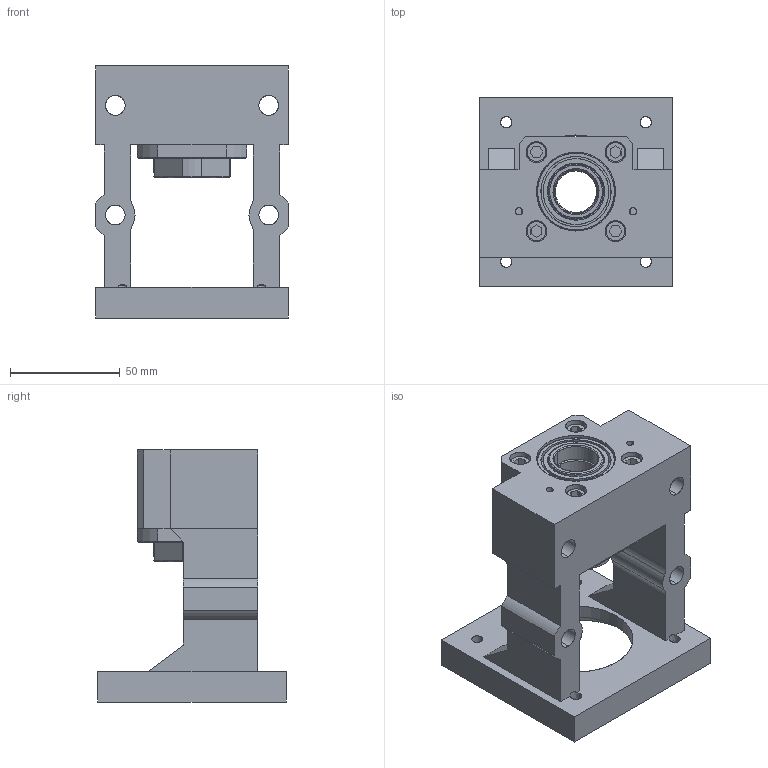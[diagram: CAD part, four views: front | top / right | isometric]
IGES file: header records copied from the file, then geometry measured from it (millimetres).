
Start section: SolidWorks IGES file using analytic representation for surfaces
Bounding box: 88 x 86 x 115 mm (x, y, z)
Surface area: 65807.1 mm2 (no closed solid volume)
Topology: 0 solids, 0 shells, 241 faces, 3924 edges, 3924 vertices
Faces by surface type: revolution 122, bspline 119
